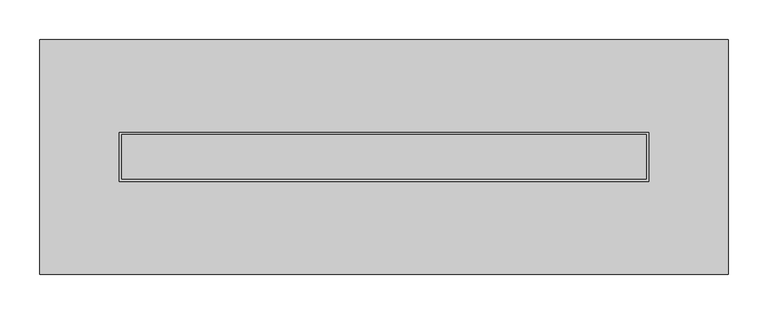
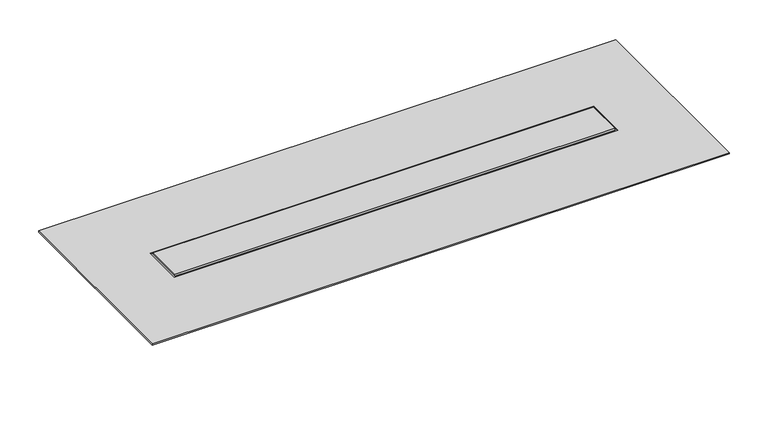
"""IFC4 building model written with IfcOpenShell, lengths in millimetres: sanitary terminal geometry, NLRS_PF_52_UN_Compact TAF Low_Easydrain : Compact TAF Low Inleg."""

from ifc_helpers import new_model, si_unit, frame, origin, place, context, project, spatial, polyline, circle_curve, ellipse_curve, outline, extrude, source, transform, mapped, element, save
from ifc_brep_helpers import plane_surface, cylinder_surface, advanced_brep


def sanitary_terminal_e1eeded3(model_context):
    return source(origin(), model_context, "Body", "SolidModel", [
        extrude(outline(polyline([(429.5, 28.0), (429.5, -28.0), (-229.5, -28.0), (-229.5, 28.0), (429.5, 28.0)])), frame((0.0, 0.0, -3.0), z_axis=(0.0, 0.0, 1.0), x_axis=(1.0, 0.0, 0.0)), (0.0, 0.0, 1.0), 3.0),
        extrude(outline(polyline([(532.5, 147.5), (532.5, -147.5), (-332.5, -147.5), (-332.5, 147.5), (532.5, 147.5)]), holes=[polyline([(432.5, 31.0), (-232.5, 31.0), (-232.5, -31.0), (432.5, -31.0), (432.5, 31.0)])]), frame((0.0, 0.0, -4.0), z_axis=(0.0, 0.0, 1.0), x_axis=(1.0, 0.0, 0.0)), (0.0, 0.0, 1.0), 2.0),
        advanced_brep(
        [(-232.5, -31.0, -21.0), (-10.0, -31.0, -23.0), (-10.0, -31.0, -66.0), (210.0, -31.0, -66.0), (210.0, -31.0, -23.0), (432.5, -31.0, -21.0), (432.5, -31.0, -5.0), (-232.5, -31.0, -5.0), (100.0, -31.0, -21.0), (100.0, -31.0, -61.0), (432.5, 31.0, -21.0), (210.0, 31.0, -23.0), (210.0, 31.0, -66.0), (-10.0, 31.0, -66.0), (-10.0, 31.0, -23.0), (-232.5, 31.0, -21.0), (-232.5, 31.0, -5.0), (432.5, 31.0, -5.0), (-212.5, 0.0, -21.1797753), (-172.5, 0.0, -21.5393258), (432.5, 30.0, -5.0), (432.5, -30.0, -5.0), (450.0, 47.5, -3.0), (-250.0, 47.5, -3.0), (-250.0, -64.5, -3.0), (450.0, -64.5, -3.0), (-232.5, -30.0, -5.0), (-232.5, 30.0, -5.0), (372.5, 0.0, -21.5393258), (412.5, 0.0, -21.1797753), (100.0, -50.0, -21.0), (100.0, -50.0, -61.0), (450.0, 47.5, -5.0), (450.0, -64.5, -5.0), (-250.0, -64.5, -5.0), (-250.0, 47.5, -5.0), (-212.5, 0.0, -66.0), (-172.5, 0.0, -66.0), (372.5, 0.0, -66.0), (412.5, 0.0, -66.0)],
        [
            (0, 1),
            (1, 2),
            (2, 3),
            (3, 4),
            (4, 5),
            (5, 6),
            (6, 7),
            (7, 0),
            (8, 9, circle_curve(frame((100.0, -31.0, -41.0), z_axis=(0.0, 1.0, 0.0), x_axis=(0.0, 0.0, -1.0)), 20.0)),
            (9, 8, circle_curve(frame((100.0, -31.0, -41.0), z_axis=(0.0, 1.0, 0.0), x_axis=(0.0, 0.0, -1.0)), 20.0)),
            (10, 11),
            (11, 12),
            (12, 13),
            (13, 14),
            (14, 15),
            (15, 16),
            (16, 17),
            (17, 10),
            (0, 15),
            (14, 1),
            (18, 19, ellipse_curve(frame((-192.5, 0.0, -21.3595506), z_axis=(0.00898840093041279, 0.0, 0.9999596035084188), x_axis=(-0.9999596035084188, 0.0, 0.008988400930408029)), 20.000808, 20.0)),
            (19, 18, ellipse_curve(frame((-192.5, 0.0, -21.3595506), z_axis=(0.00898840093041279, 0.0, 0.9999596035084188), x_axis=(-0.9999596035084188, 0.0, 0.008988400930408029)), 20.000808, 20.0)),
            (5, 10),
            (17, 20),
            (20, 21),
            (21, 6),
            (22, 23),
            (23, 24),
            (24, 25),
            (25, 22),
            (7, 26),
            (26, 27),
            (27, 16),
            (13, 2),
            (12, 3),
            (11, 4),
            (28, 29, ellipse_curve(frame((392.5, 0.0, -21.3595506), z_axis=(-0.00898840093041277, 0.0, 0.9999596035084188), x_axis=(0.9999596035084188, 0.0, 0.00898840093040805)), 20.000808, 20.0)),
            (29, 28, ellipse_curve(frame((392.5, 0.0, -21.3595506), z_axis=(-0.00898840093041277, 0.0, 0.9999596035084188), x_axis=(0.9999596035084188, 0.0, 0.00898840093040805)), 20.000808, 20.0)),
            (30, 31, circle_curve(frame((100.0, -50.0, -41.0), z_axis=(0.0, -1.0, 0.0), x_axis=(0.0, 0.0, -1.0)), 20.0)),
            (31, 30, circle_curve(frame((100.0, -50.0, -41.0), z_axis=(0.0, -1.0, 0.0), x_axis=(0.0, 0.0, -1.0)), 20.0)),
            (31, 9),
            (8, 30),
            (32, 33),
            (33, 34),
            (34, 35),
            (35, 32),
            (22, 32),
            (35, 23),
            (34, 24),
            (33, 25),
            (36, 37, circle_curve(frame((-192.5, 0.0, -66.0), z_axis=(0.0, 0.0, -1.0), x_axis=(1.0, 0.0, 0.0)), 20.0)),
            (37, 36, circle_curve(frame((-192.5, 0.0, -66.0), z_axis=(0.0, 0.0, -1.0), x_axis=(1.0, 0.0, 0.0)), 20.0)),
            (38, 39, circle_curve(frame((392.5, 0.0, -66.0), z_axis=(0.0, 0.0, -1.0), x_axis=(1.0, 0.0, 0.0)), 20.0)),
            (39, 38, circle_curve(frame((392.5, 0.0, -66.0), z_axis=(0.0, 0.0, -1.0), x_axis=(1.0, 0.0, 0.0)), 20.0)),
            (37, 19),
            (18, 36),
            (39, 29),
            (28, 38),
        ],
        [
            plane_surface(frame((-232.5, -31.0, -21.0), z_axis=(0.0, -1.0, 0.0), x_axis=(0.9999596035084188, 0.0, -0.00898840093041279))),
            plane_surface(frame((-232.5, 31.0, -21.0), z_axis=(0.0, 1.0, 0.0), x_axis=(-0.9999596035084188, 0.0, 0.00898840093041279))),
            plane_surface(frame((-232.5, -31.0, -21.0), z_axis=(-0.00898840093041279, 0.0, -0.9999596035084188), x_axis=(0.0, 1.0, 0.0))),
            plane_surface(frame((432.5, -31.0, -21.0), z_axis=(1.0, 0.0, 0.0), x_axis=(0.0, 1.0, 0.0))),
            plane_surface(frame((432.5, -31.0, -3.0), z_axis=(0.0, 0.0, 1.0), x_axis=(0.0, 1.0, 0.0))),
            plane_surface(frame((-232.5, -31.0, -3.0), z_axis=(-1.0, 0.0, 0.0), x_axis=(0.0, 1.0, 0.0))),
            plane_surface(frame((-10.0, -31.0, -23.0), z_axis=(-1.0, 0.0, 0.0), x_axis=(0.0, 1.0, 0.0))),
            plane_surface(frame((-10.0, -31.0, -66.0), z_axis=(0.0, 0.0, -1.0), x_axis=(0.0, 1.0, 0.0))),
            plane_surface(frame((210.0, -31.0, -66.0), z_axis=(1.0, 0.0, 0.0), x_axis=(0.0, 1.0, 0.0))),
            plane_surface(frame((210.0, -31.0, -23.0), z_axis=(0.00898840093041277, 0.0, -0.9999596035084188), x_axis=(0.0, 1.0, 0.0))),
            plane_surface(frame((100.0, -50.0, -41.0), z_axis=(0.0, -1.0, 0.0), x_axis=(1.0, 0.0, 0.0))),
            cylinder_surface(frame((100.0, 0.0, -41.0), z_axis=(0.0, 1.0, 0.0), x_axis=(0.0, 0.0, -1.0)), 20.0),
            plane_surface(frame((432.5, 30.0, -5.0), z_axis=(0.0, 0.0, -1.0), x_axis=(0.0, 1.0, 0.0))),
            plane_surface(frame((450.0, 47.5, -3.0), z_axis=(0.0, 1.0, 0.0), x_axis=(0.0, 0.0, -1.0))),
            plane_surface(frame((-250.0, 47.5, -3.0), z_axis=(-1.0, 0.0, 0.0), x_axis=(0.0, 0.0, -1.0))),
            plane_surface(frame((-250.0, -64.5, -3.0), z_axis=(0.0, -1.0, 0.0), x_axis=(0.0, 0.0, -1.0))),
            plane_surface(frame((450.0, -64.5, -3.0), z_axis=(1.0, 0.0, 0.0), x_axis=(0.0, 0.0, -1.0))),
            plane_surface(frame((-172.5, 0.0, -66.0), z_axis=(0.0, 0.0, -1.0), x_axis=(0.0, -1.0, 0.0))),
            cylinder_surface(frame((-192.5, 0.0, -66.0), z_axis=(0.0, 0.0, 1.0), x_axis=(1.0, 0.0, 0.0)), 20.0),
            cylinder_surface(frame((392.5, 0.0, 0.0), z_axis=(0.0, 0.0, 1.0), x_axis=(1.0, 0.0, 0.0)), 20.0),
        ],
        [
            (0, [[1, 2, 3, 4, 5, 6, 7, 8], [9, 10]]),
            (1, [[11, 12, 13, 14, 15, 16, 17, 18]]),
            (2, [[-1, 19, -15, 20], [21, 22]]),
            (3, [[23, -18, 24, 25, 26, -6]]),
            (4, [[27, 28, 29, 30]]),
            (5, [[-19, -8, 31, 32, 33, -16]]),
            (6, [[-2, -20, -14, 34]]),
            (7, [[-3, -34, -13, 35]]),
            (8, [[-4, -35, -12, 36]]),
            (9, [[-5, -36, -11, -23], [37, 38]]),
            (10, [[39, 40]]),
            (11, [[-40, 41, -9, 42]]),
            (11, [[-39, -42, -10, -41]]),
            (12, [[43, 44, 45, 46], [-7, -26, -25, -24, -17, -33, -32, -31]]),
            (13, [[-27, 47, -46, 48]]),
            (14, [[-28, -48, -45, 49]]),
            (15, [[-29, -49, -44, 50]]),
            (16, [[-30, -50, -43, -47]]),
            (17, [[51, 52]]),
            (17, [[53, 54]]),
            (18, [[-52, 55, -21, 56]]),
            (18, [[-51, -56, -22, -55]]),
            (19, [[-54, 57, -37, 58]]),
            (19, [[-53, -58, -38, -57]]),
        ],
    ),
    ])


if __name__ == "__main__":
    model = new_model("IFC4")
    model_context = context("Model", 3, world=origin())
    ifc_project = project(units=[si_unit("LENGTHUNIT", "METRE", prefix="MILLI")], contexts=[model_context])
    site = spatial("IfcSite", under=ifc_project)
    building = spatial("IfcBuilding", under=site)
    placement = place(None, origin())
    sanitary_terminal_shape = sanitary_terminal_e1eeded3(model_context)
    element("IfcSanitaryTerminal", 1, ObjectType="NLRS_PF_52_UN_Compact TAF Low_Easydrain : Compact TAF Low Inleg", at=placement, inside=building, context=model_context, shape_type="MappedRepresentation", body=[
        mapped(sanitary_terminal_shape, transform((0.0, 0.0, 0.0), x_axis=(1.0, 0.0, 0.0), y_axis=(0.0, 1.0, 0.0), z_axis=(0.0, 0.0, 1.0))),
    ])
    save(model, "model.ifc")
